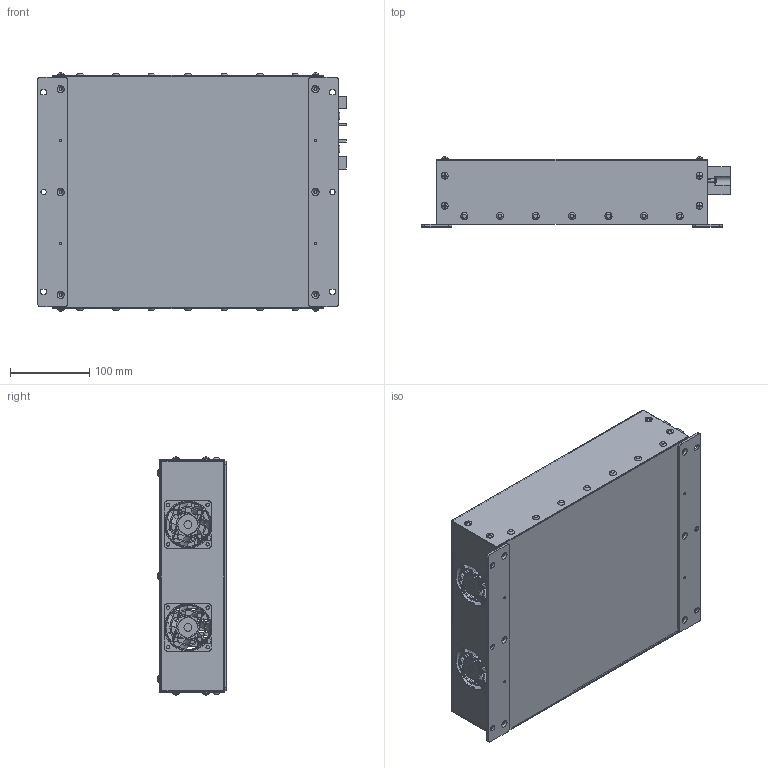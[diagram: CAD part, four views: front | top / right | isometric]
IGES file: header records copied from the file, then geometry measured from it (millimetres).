
Global section: file name: W2; native system: Autodesk Inventor 2021; preprocessor: unknown; author: eunsol jang; date: 20211210.143352; units: millimetre
Bounding box: 390 x 88.32 x 300.84 mm (x, y, z)
Volume: 600135.4 mm3; surface area: 739826.7 mm2
Topology: 3 solids, 3 shells, 2144 faces, 5790 edges, 3790 vertices
Faces by surface type: bspline 2144
